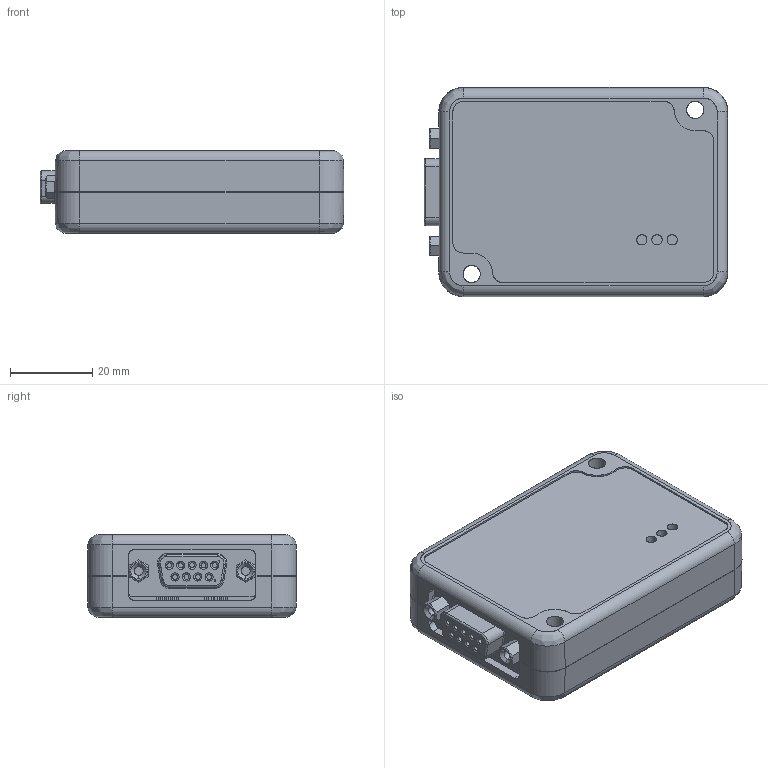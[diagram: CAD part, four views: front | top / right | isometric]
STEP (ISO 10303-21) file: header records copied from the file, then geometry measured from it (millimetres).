
FILE_DESCRIPTION(('Open CASCADE Model'),'2;1');
FILE_NAME('Open CASCADE Shape Model','2021-01-27T14:57:11',('Author'),( 'Open CASCADE'),'Open CASCADE STEP processor 6.8','Open CASCADE 6.8' ,'Unknown');
FILE_SCHEMA(('AUTOMOTIVE_DESIGN { 1 0 10303 214 1 1 1 1 }'));
Products named in the file (1): PCB
Bounding box: 74.11 x 51 x 20.1 mm (x, y, z)
Volume: 3065.6 mm3; surface area: 33672.2 mm2
Topology: 4 solids, 688 shells, 1325 faces, 8010 edges, 7382 vertices
Faces by surface type: plane 599, cylinder 325, bspline 230, revolution 141, cone 26, sphere 4
Full cylindrical faces by diameter (mm): 0.5 x6, 0.8 x5, 0.9 x16, 3.2 x4
Entity records: 84203 total; most frequent: CARTESIAN_POINT 24197, ORIENTED_EDGE 9844, DIRECTION 8512, EDGE_CURVE 8010, VERTEX_POINT 7382, LINE 4037, VECTOR 4037, B_SPLINE_CURVE_WITH_KNOTS 2894
